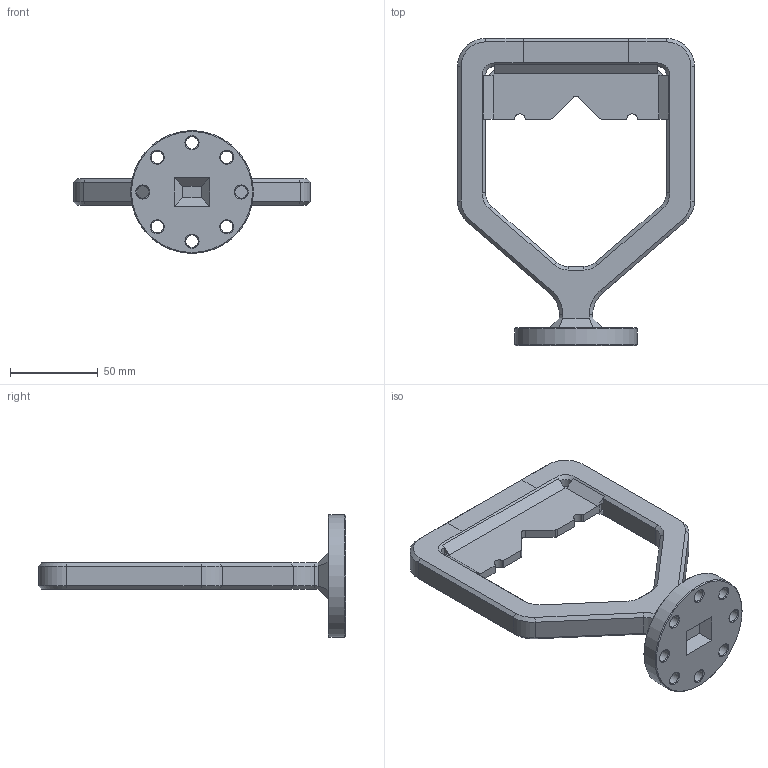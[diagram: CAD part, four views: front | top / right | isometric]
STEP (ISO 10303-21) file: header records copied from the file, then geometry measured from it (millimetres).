
FILE_DESCRIPTION(/* description */ (''),/* implementation_level */ '2;1');
FILE_NAME(/* name */ 'S:\02.Public\05.Marked\02 IKM Technology Products\08 3D Models\SHRINKWRAPS\3 HANDLES AND VALVES\5232-003.stp',/* time_stamp */ '2019-05-10T08:56:40+02:00',/* author */ ('Dak3.Tecbry'),/* organization */ (''),/* preprocessor_version */ 'ST-DEVELOPER v17',/* originating_system */ 'Autodesk Inventor 2018',/* authorisation */ '');
FILE_SCHEMA (('AUTOMOTIVE_DESIGN { 1 0 10303 214 3 1 1 }'));
Length unit declared in the file: millimetre
Products named in the file (1): IKM-1068052
Bounding box: 135 x 175 x 70 mm (x, y, z)
Volume: 159345.9 mm3; surface area: 42172.1 mm2
Topology: 1 solids, 1 shells, 175 faces, 457 edges, 276 vertices
Faces by surface type: plane 97, cone 42, cylinder 36
Full cylindrical faces by diameter (mm): 7 x8, 70 x1
Entity records: 5538 total; most frequent: DIRECTION 931, ORIENTED_EDGE 914, CARTESIAN_POINT 909, EDGE_CURVE 457, LINE 335, VECTOR 335, AXIS2_PLACEMENT_3D 298, VERTEX_POINT 276
